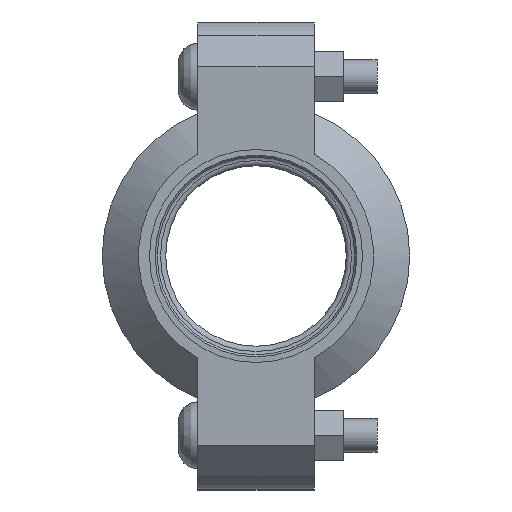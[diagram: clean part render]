
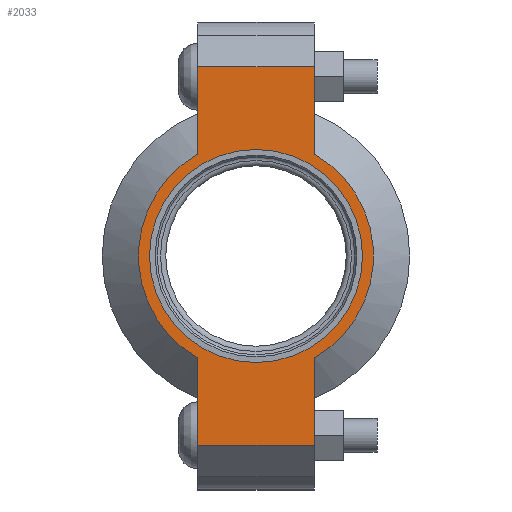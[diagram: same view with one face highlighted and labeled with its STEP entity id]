
A CAD part, left-side view. The second image highlights one B-rep face of the part: STEP entity #2033.
In plain terms, the highlighted planar face has unit normal (-1, 0, 0) as drawn and (0, 0, 1) by its records, which use the part's own axes.
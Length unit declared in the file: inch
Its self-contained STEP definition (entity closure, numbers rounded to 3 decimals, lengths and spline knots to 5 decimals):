
#166=LINE('',#3626,#265);
#174=LINE('',#3662,#273);
#181=LINE('',#3683,#280);
#190=LINE('',#3715,#289);
#191=LINE('',#3719,#290);
#192=LINE('',#3721,#291);
#265=VECTOR('',#2972,0.3937);
#273=VECTOR('',#2988,0.3937);
#280=VECTOR('',#3007,0.3937);
#289=VECTOR('',#3032,0.3937);
#290=VECTOR('',#3037,0.3937);
#291=VECTOR('',#3038,0.3937);
#351=FACE_BOUND('',#621,.T.);
#397=PLANE('',#2398);
#493=FACE_OUTER_BOUND('',#620,.T.);
#620=EDGE_LOOP('',(#1762,#1763,#1764,#1765,#1766,#1767,#1768,#1769));
#621=EDGE_LOOP('',(#1770));
#768=CIRCLE('',#2340,1.1875);
#794=CIRCLE('',#2399,1.31);
#795=CIRCLE('',#2400,1.31);
#919=VERTEX_POINT('',#3442);
#962=VERTEX_POINT('',#3623);
#963=VERTEX_POINT('',#3625);
#974=VERTEX_POINT('',#3657);
#975=VERTEX_POINT('',#3661);
#982=VERTEX_POINT('',#3680);
#983=VERTEX_POINT('',#3682);
#993=VERTEX_POINT('',#3718);
#994=VERTEX_POINT('',#3720);
#1156=EDGE_CURVE('',#919,#919,#768,.T.);
#1217=EDGE_CURVE('',#963,#962,#166,.T.);
#1231=EDGE_CURVE('',#975,#974,#174,.T.);
#1241=EDGE_CURVE('',#983,#982,#181,.T.);
#1256=EDGE_CURVE('',#975,#962,#190,.T.);
#1257=EDGE_CURVE('',#974,#983,#794,.T.);
#1258=EDGE_CURVE('',#993,#982,#191,.T.);
#1259=EDGE_CURVE('',#993,#994,#192,.T.);
#1260=EDGE_CURVE('',#994,#963,#795,.T.);
#1762=ORIENTED_EDGE('',*,*,#1256,.F.);
#1763=ORIENTED_EDGE('',*,*,#1231,.T.);
#1764=ORIENTED_EDGE('',*,*,#1257,.T.);
#1765=ORIENTED_EDGE('',*,*,#1241,.T.);
#1766=ORIENTED_EDGE('',*,*,#1258,.F.);
#1767=ORIENTED_EDGE('',*,*,#1259,.T.);
#1768=ORIENTED_EDGE('',*,*,#1260,.T.);
#1769=ORIENTED_EDGE('',*,*,#1217,.T.);
#1770=ORIENTED_EDGE('',*,*,#1156,.T.);
#2033=ADVANCED_FACE('',(#493,#351),#397,.T.);
#2340=AXIS2_PLACEMENT_3D('',#3444,#2848,#2849);
#2398=AXIS2_PLACEMENT_3D('',#3716,#3033,#3034);
#2399=AXIS2_PLACEMENT_3D('',#3717,#3035,#3036);
#2400=AXIS2_PLACEMENT_3D('',#3722,#3039,#3040);
#2848=DIRECTION('center_axis',(0.,0.,-1.));
#2849=DIRECTION('ref_axis',(1.,0.,0.));
#2972=DIRECTION('',(1.,0.,0.));
#2988=DIRECTION('',(-1.,0.,0.));
#3007=DIRECTION('',(-1.,0.,0.));
#3032=DIRECTION('',(0.,-1.,0.));
#3033=DIRECTION('center_axis',(0.,0.,1.));
#3034=DIRECTION('ref_axis',(-1.,0.,0.));
#3035=DIRECTION('center_axis',(0.,0.,1.));
#3036=DIRECTION('ref_axis',(1.,0.,0.));
#3037=DIRECTION('',(0.,1.,0.));
#3038=DIRECTION('',(1.,0.,0.));
#3039=DIRECTION('center_axis',(0.,0.,1.));
#3040=DIRECTION('ref_axis',(1.,0.,0.));
#3442=CARTESIAN_POINT('',(-1.1875,0.,0.94));
#3444=CARTESIAN_POINT('Origin',(0.,0.,0.94));
#3623=CARTESIAN_POINT('',(2.11,-0.65,0.94));
#3625=CARTESIAN_POINT('',(1.13737,-0.65,0.94));
#3626=CARTESIAN_POINT('',(2.61,-0.65,0.94));
#3657=CARTESIAN_POINT('',(1.13737,0.65,0.94));
#3661=CARTESIAN_POINT('',(2.11,0.65,0.94));
#3662=CARTESIAN_POINT('',(-2.61,0.65,0.94));
#3680=CARTESIAN_POINT('',(-2.11,0.65,0.94));
#3682=CARTESIAN_POINT('',(-1.13737,0.65,0.94));
#3683=CARTESIAN_POINT('',(-2.61,0.65,0.94));
#3715=CARTESIAN_POINT('',(2.11,-0.325,0.94));
#3716=CARTESIAN_POINT('Origin',(0.,0.,
0.94));
#3717=CARTESIAN_POINT('Origin',(0.,0.,0.94));
#3718=CARTESIAN_POINT('',(-2.11,-0.65,0.94));
#3719=CARTESIAN_POINT('',(-2.11,0.325,0.94));
#3720=CARTESIAN_POINT('',(-1.13737,-0.65,0.94));
#3721=CARTESIAN_POINT('',(2.61,-0.65,0.94));
#3722=CARTESIAN_POINT('Origin',(0.,0.,0.94));
